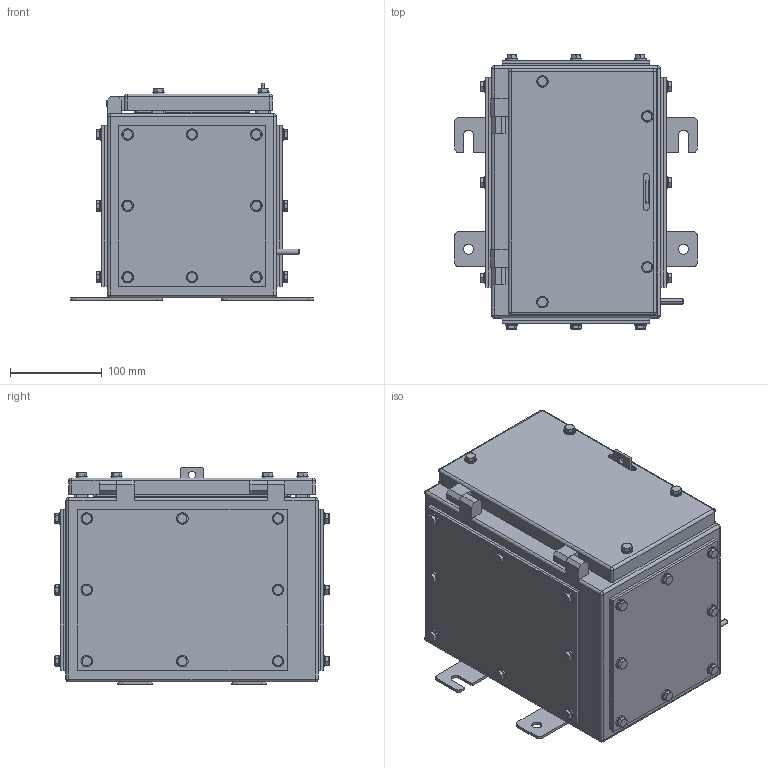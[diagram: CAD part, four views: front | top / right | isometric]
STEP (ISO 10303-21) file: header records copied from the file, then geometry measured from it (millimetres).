
FILE_DESCRIPTION (( 'STEP AP203' ), '1' );
FILE_NAME ('SX0.5_200 4GP.STEP', '2021-05-21T07:09:42', ( '' ), ( '' ), 'SwSTEP 2.0', 'SolidWorks 2020', '' );
FILE_SCHEMA (( 'CONFIG_CONTROL_DESIGN' ));
Length unit declared in the file: millimetre
Products named in the file (10): SX0.5_200 4GP; SX0.5-200 Base Gasket; plain washer form a_bsi_Bright washer BS 4320 - M6 (Form A); SX0.5-200 side Gasket; SX0.5_200 4GP Body; hex screw gradec_bsi_BS EN 24018 - M6 x 16-WN; hex screw gradec_bsi_BS EN 24018 - M6 x 20-WN; SX0.5 Door; SX0.5-200 side Gland plate; SX0.5-200 Base Gland plate
Assembly tree (82 placements, depth 2):
  SX0.5_200 4GP
    SX0.5_200 4GP Body
    SX0.5-200 side Gasket  x2
    SX0.5-200 Base Gasket  x2
    SX0.5-200 Base Gland plate  x2
    SX0.5-200 side Gland plate  x2
    SX0.5 Door
    hex screw gradec_bsi_BS EN 24018 - M6 x 16-WN  x32
    plain washer form a_bsi_Bright washer BS 4320 - M6 (Form A)  x36
    hex screw gradec_bsi_BS EN 24018 - M6 x 20-WN  x4
Bounding box: 264 x 297.95 x 236 mm (x, y, z)
Volume: 1170925.3 mm3; surface area: 959277.1 mm2
Topology: 82 solids, 82 shells, 1966 faces, 4306 edges, 2600 vertices
Faces by surface type: plane 898, cylinder 724, cone 296, sphere 40, torus 8
Entity records: 24350 total; most frequent: DIRECTION 4084, CARTESIAN_POINT 3655, ORIENTED_EDGE 3332, EDGE_CURVE 1666, AXIS2_PLACEMENT_3D 1621, VERTEX_POINT 1048, EDGE_LOOP 930, LINE 842
